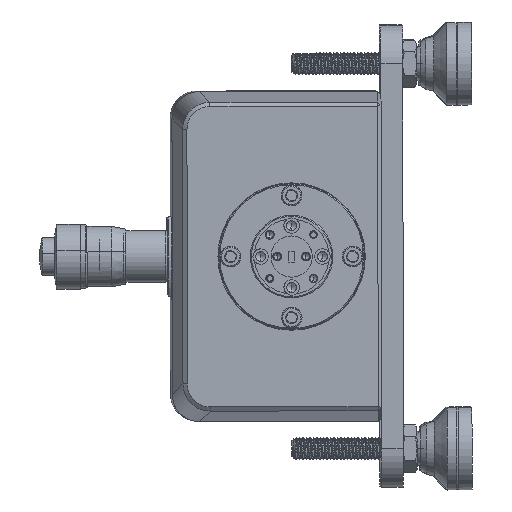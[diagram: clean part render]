
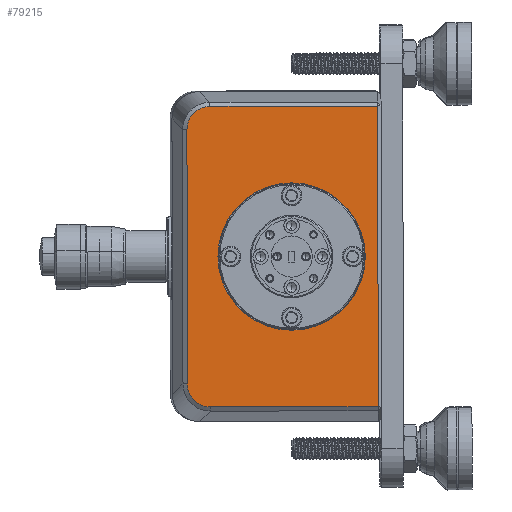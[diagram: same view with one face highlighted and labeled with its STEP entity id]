
A CAD part, left-side view. The second image highlights one B-rep face of the part: STEP entity #79215.
In plain terms, the highlighted planar face has unit normal (-1, -0.002, -0.001).
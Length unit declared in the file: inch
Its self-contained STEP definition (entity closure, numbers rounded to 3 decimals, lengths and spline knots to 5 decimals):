
#131 = AXIS2_PLACEMENT_3D ( 'NONE', #24919, #118794, #71869 ) ;
#2885 = ORIENTED_EDGE ( 'NONE', *, *, #131697, .T. ) ;
#3242 = CARTESIAN_POINT ( 'NONE',  ( -3.34109, -8.40374, -2.68225 ) ) ;
#3522 = VECTOR ( 'NONE', #100030, 39.37008 ) ;
#4555 = CARTESIAN_POINT ( 'NONE',  ( -3.34323, -7.48197, -1.31837 ) ) ;
#4698 = VECTOR ( 'NONE', #90049, 39.37008 ) ;
#7886 = B_SPLINE_CURVE_WITH_KNOTS ( 'NONE', 3,
 ( #99597, #123205, #145970, #148228, #8086, #42167, #19386, #101854, #9586, #147466 ),
 .UNSPECIFIED., .F., .F.,
 ( 4, 2, 2, 2, 4 ),
 ( 0., 0.25, 0.5, 0.75, 1. ),
 .UNSPECIFIED. ) ;
#8086 = CARTESIAN_POINT ( 'NONE',  ( -3.34377, -6.71028, -2.60422 ) ) ;
#9586 = CARTESIAN_POINT ( 'NONE',  ( -3.34351, -6.85004, -2.68427 ) ) ;
#15542 = EDGE_CURVE ( 'NONE', #78876, #149655, #7886, .T. ) ;
#17402 = LINE ( 'NONE', #96844, #94885 ) ;
#18631 = EDGE_CURVE ( 'NONE', #141481, #78876, #129930, .T. ) ;
#19370 = CARTESIAN_POINT ( 'NONE',  ( -3.34511, -6.70695, -0.03451 ) ) ;
#19386 = CARTESIAN_POINT ( 'NONE',  ( -3.34365, -6.77209, -2.65813 ) ) ;
#21127 = LINE ( 'NONE', #21885, #4698 ) ;
#21885 = CARTESIAN_POINT ( 'NONE',  ( -3.34394, -7.4802, 0.04671 ) ) ;
#22355 = CARTESIAN_POINT ( 'NONE',  ( -3.34511, -6.6654, -0.16327 ) ) ;
#24919 = CARTESIAN_POINT ( 'NONE',  ( -3.34302, -7.61697, -1.31819 ) ) ;
#25979 = VERTEX_POINT ( 'NONE', #3242 ) ;
#33046 = EDGE_CURVE ( 'NONE', #149655, #25979, #17402, .T. ) ;
#33657 = AXIS2_PLACEMENT_3D ( 'NONE', #4555, #60573, #38611 ) ;
#37509 = DIRECTION ( 'NONE',  ( 0.001, -0.001, -1. ) ) ;
#38611 = DIRECTION ( 'NONE',  ( 0.001, -0.001, -1. ) ) ;
#40232 = CARTESIAN_POINT ( 'NONE',  ( -3.34511, -6.6654, -0.16327 ) ) ;
#42167 = CARTESIAN_POINT ( 'NONE',  ( -3.34369, -6.74883, -2.64268 ) ) ;
#42885 = CARTESIAN_POINT ( 'NONE',  ( -3.34512, -6.6915, -0.05777 ) ) ;
#43884 = ORIENTED_EDGE ( 'NONE', *, *, #60971, .F. ) ;
#45124 = CARTESIAN_POINT ( 'NONE',  ( -3.34504, -6.76862, 0.01956 ) ) ;
#49113 = CARTESIAN_POINT ( 'NONE',  ( -3.34251, -8.4002, 0.0479 ) ) ;
#49641 = ORIENTED_EDGE ( 'NONE', *, *, #18631, .T. ) ;
#50689 = EDGE_LOOP ( 'NONE', ( #72052, #43884 ) ) ;
#53761 = AXIS2_PLACEMENT_3D ( 'NONE', #99718, #146086, #77802 ) ;
#53932 = CARTESIAN_POINT ( 'NONE',  ( -3.3418, -8.40197, -1.31717 ) ) ;
#55118 = ORIENTED_EDGE ( 'NONE', *, *, #101937, .T. ) ;
#56436 = CARTESIAN_POINT ( 'NONE',  ( -3.34494, -6.84656, 0.04589 ) ) ;
#56445 = CARTESIAN_POINT ( 'NONE',  ( -3.34391, -6.6684, -2.47558 ) ) ;
#57455 = EDGE_CURVE ( 'NONE', #119754, #141481, #99027, .T. ) ;
#60573 = DIRECTION ( 'NONE',  ( 1., 0.002, 0.001 ) ) ;
#60971 = EDGE_CURVE ( 'NONE', #131200, #83444, #96765, .T. ) ;
#62491 = CARTESIAN_POINT ( 'NONE',  ( -3.34451, -6.6669, -1.31942 ) ) ;
#64464 = CARTESIAN_POINT ( 'NONE',  ( -3.34337, -7.6161, -0.64819 ) ) ;
#71869 = DIRECTION ( 'NONE',  ( -0.001, 0.001, 1. ) ) ;
#72052 = ORIENTED_EDGE ( 'NONE', *, *, #119753, .F. ) ;
#73951 = CARTESIAN_POINT ( 'NONE',  ( -3.34267, -7.61784, -1.98819 ) ) ;
#77802 = DIRECTION ( 'NONE',  ( -0.001, 0.001, 1. ) ) ;
#78876 = VERTEX_POINT ( 'NONE', #56445 ) ;
#79215 = ADVANCED_FACE ( 'NONE', ( #128054, #127311 ), #115182, .F. ) ;
#82471 = ORIENTED_EDGE ( 'NONE', *, *, #33046, .T. ) ;
#82722 = CIRCLE ( 'NONE', #53761, 0.67 ) ;
#83444 = VERTEX_POINT ( 'NONE', #64464 ) ;
#87254 = LINE ( 'NONE', #53932, #3522 ) ;
#90049 = DIRECTION ( 'NONE',  ( -0.002, 1., -0.001 ) ) ;
#91259 = CARTESIAN_POINT ( 'NONE',  ( -3.34512, -6.66536, -0.13572 ) ) ;
#91288 = EDGE_LOOP ( 'NONE', ( #130307, #82471, #55118, #2885, #91413, #49641 ) ) ;
#91413 = ORIENTED_EDGE ( 'NONE', *, *, #57455, .T. ) ;
#94885 = VECTOR ( 'NONE', #131809, 39.37008 ) ;
#95618 = VECTOR ( 'NONE', #37509, 39.37008 ) ;
#96765 = CIRCLE ( 'NONE', #131, 0.67 ) ;
#96844 = CARTESIAN_POINT ( 'NONE',  ( -3.34252, -7.48374, -2.68344 ) ) ;
#98830 = VERTEX_POINT ( 'NONE', #49113 ) ;
#99027 = B_SPLINE_CURVE_WITH_KNOTS ( 'NONE', 3,
 ( #125431, #56436, #102594, #45124, #101095, #19370, #42885, #124682, #91259, #22355 ),
 .UNSPECIFIED., .F., .F.,
 ( 4, 2, 2, 2, 4 ),
 ( 0., 0.25, 0.5, 0.75, 1. ),
 .UNSPECIFIED. ) ;
#99597 = CARTESIAN_POINT ( 'NONE',  ( -3.34391, -6.6684, -2.47558 ) ) ;
#99718 = CARTESIAN_POINT ( 'NONE',  ( -3.34302, -7.61697, -1.31819 ) ) ;
#100030 = DIRECTION ( 'NONE',  ( -0.001, 0.001, 1. ) ) ;
#101095 = CARTESIAN_POINT ( 'NONE',  ( -3.34507, -6.74541, 0.00403 ) ) ;
#101854 = CARTESIAN_POINT ( 'NONE',  ( -3.34356, -6.82259, -2.67887 ) ) ;
#101937 = EDGE_CURVE ( 'NONE', #25979, #98830, #87254, .T. ) ;
#102594 = CARTESIAN_POINT ( 'NONE',  ( -3.34498, -6.81907, 0.04042 ) ) ;
#112623 = CARTESIAN_POINT ( 'NONE',  ( -3.34347, -6.87759, -2.68423 ) ) ;
#115182 = PLANE ( 'NONE',  #33657 ) ;
#118794 = DIRECTION ( 'NONE',  ( -1., -0.002, -0.001 ) ) ;
#119753 = EDGE_CURVE ( 'NONE', #83444, #131200, #82722, .T. ) ;
#119754 = VERTEX_POINT ( 'NONE', #134721 ) ;
#123205 = CARTESIAN_POINT ( 'NONE',  ( -3.34389, -6.66843, -2.50307 ) ) ;
#124682 = CARTESIAN_POINT ( 'NONE',  ( -3.34513, -6.67076, -0.10827 ) ) ;
#125431 = CARTESIAN_POINT ( 'NONE',  ( -3.34489, -6.87405, 0.04592 ) ) ;
#127311 = FACE_BOUND ( 'NONE', #50689, .T. ) ;
#128054 = FACE_OUTER_BOUND ( 'NONE', #91288, .T. ) ;
#129930 = LINE ( 'NONE', #62491, #95618 ) ;
#130307 = ORIENTED_EDGE ( 'NONE', *, *, #15542, .T. ) ;
#131200 = VERTEX_POINT ( 'NONE', #73951 ) ;
#131697 = EDGE_CURVE ( 'NONE', #98830, #119754, #21127, .T. ) ;
#131809 = DIRECTION ( 'NONE',  ( 0.002, -1., 0.001 ) ) ;
#134721 = CARTESIAN_POINT ( 'NONE',  ( -3.34489, -6.87405, 0.04592 ) ) ;
#141481 = VERTEX_POINT ( 'NONE', #40232 ) ;
#145970 = CARTESIAN_POINT ( 'NONE',  ( -3.34387, -6.6739, -2.53056 ) ) ;
#146086 = DIRECTION ( 'NONE',  ( -1., -0.002, -0.001 ) ) ;
#147466 = CARTESIAN_POINT ( 'NONE',  ( -3.34347, -6.87759, -2.68423 ) ) ;
#148228 = CARTESIAN_POINT ( 'NONE',  ( -3.34381, -6.69476, -2.58101 ) ) ;
#149655 = VERTEX_POINT ( 'NONE', #112623 ) ;
